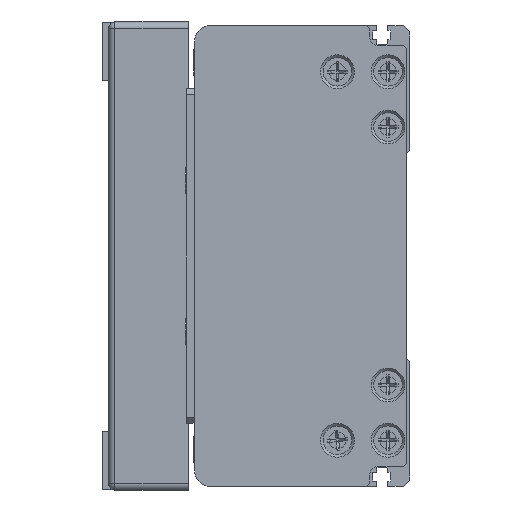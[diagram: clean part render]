
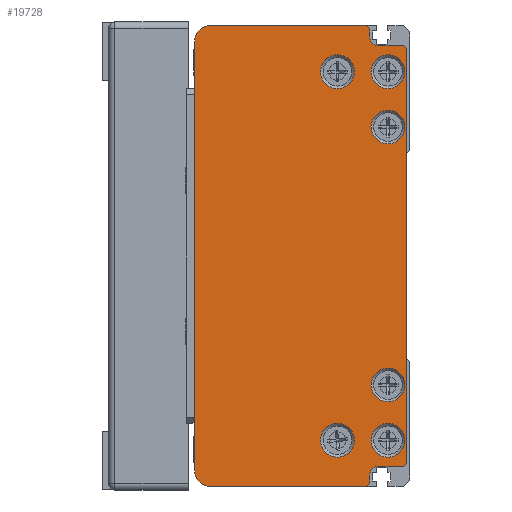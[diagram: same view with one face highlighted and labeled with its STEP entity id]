
A CAD part, left-side view. The second image highlights one B-rep face of the part: STEP entity #19728.
In plain terms, the highlighted planar face has unit normal (-1, 0, 0) as drawn and (0, 0, -1) by its records, which use the part's own axes.
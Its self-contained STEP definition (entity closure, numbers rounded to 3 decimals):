
#934=LINE('',#28482,#2599);
#935=LINE('',#28486,#2600);
#936=LINE('',#28488,#2601);
#937=LINE('',#28490,#2602);
#938=LINE('',#28494,#2603);
#939=LINE('',#28496,#2604);
#940=LINE('',#28498,#2605);
#941=LINE('',#28500,#2606);
#942=LINE('',#28502,#2607);
#943=LINE('',#28506,#2608);
#944=LINE('',#28508,#2609);
#945=LINE('',#28510,#2610);
#2599=VECTOR('',#23119,140.);
#2600=VECTOR('',#23122,51.);
#2601=VECTOR('',#23123,1.414);
#2602=VECTOR('',#23124,2.5);
#2603=VECTOR('',#23127,8.);
#2604=VECTOR('',#23128,1.414);
#2605=VECTOR('',#23129,135.);
#2606=VECTOR('',#23130,1.414);
#2607=VECTOR('',#23131,8.);
#2608=VECTOR('',#23134,2.5);
#2609=VECTOR('',#23135,1.414);
#2610=VECTOR('',#23136,51.);
#4217=PLANE('',#21070);
#4840=FACE_BOUND('',#6640,.T.);
#4841=FACE_BOUND('',#6641,.T.);
#4842=FACE_BOUND('',#6642,.T.);
#4843=FACE_BOUND('',#6643,.T.);
#4844=FACE_BOUND('',#6644,.T.);
#4845=FACE_BOUND('',#6645,.T.);
#5375=FACE_OUTER_BOUND('',#6639,.T.);
#6639=EDGE_LOOP('',(#13839,#13840,#13841,#13842,#13843,#13844,#13845,#13846,
#13847,#13848,#13849,#13850,#13851,#13852,#13853,#13854));
#6640=EDGE_LOOP('',(#13855));
#6641=EDGE_LOOP('',(#13856));
#6642=EDGE_LOOP('',(#13857));
#6643=EDGE_LOOP('',(#13858));
#6644=EDGE_LOOP('',(#13859));
#6645=EDGE_LOOP('',(#13860));
#8133=CIRCLE('',#21071,5.);
#8134=CIRCLE('',#21072,3.);
#8135=CIRCLE('',#21073,3.);
#8136=CIRCLE('',#21074,5.);
#8137=CIRCLE('',#21075,5.5);
#8138=CIRCLE('',#21076,5.5);
#8139=CIRCLE('',#21077,5.5);
#8140=CIRCLE('',#21078,5.5);
#8141=CIRCLE('',#21079,5.5);
#8142=CIRCLE('',#21080,5.5);
#8813=VERTEX_POINT('',#28480);
#8814=VERTEX_POINT('',#28481);
#8815=VERTEX_POINT('',#28483);
#8816=VERTEX_POINT('',#28485);
#8817=VERTEX_POINT('',#28487);
#8818=VERTEX_POINT('',#28489);
#8819=VERTEX_POINT('',#28491);
#8820=VERTEX_POINT('',#28493);
#8821=VERTEX_POINT('',#28495);
#8822=VERTEX_POINT('',#28497);
#8823=VERTEX_POINT('',#28499);
#8824=VERTEX_POINT('',#28501);
#8825=VERTEX_POINT('',#28503);
#8826=VERTEX_POINT('',#28505);
#8827=VERTEX_POINT('',#28507);
#8828=VERTEX_POINT('',#28509);
#8829=VERTEX_POINT('',#28512);
#8830=VERTEX_POINT('',#28514);
#8831=VERTEX_POINT('',#28516);
#8832=VERTEX_POINT('',#28518);
#8833=VERTEX_POINT('',#28520);
#8834=VERTEX_POINT('',#28522);
#10837=EDGE_CURVE('',#8813,#8814,#934,.T.);
#10838=EDGE_CURVE('',#8814,#8815,#8133,.T.);
#10839=EDGE_CURVE('',#8815,#8816,#935,.T.);
#10840=EDGE_CURVE('',#8816,#8817,#936,.T.);
#10841=EDGE_CURVE('',#8817,#8818,#937,.T.);
#10842=EDGE_CURVE('',#8818,#8819,#8134,.T.);
#10843=EDGE_CURVE('',#8819,#8820,#938,.T.);
#10844=EDGE_CURVE('',#8820,#8821,#939,.T.);
#10845=EDGE_CURVE('',#8821,#8822,#940,.T.);
#10846=EDGE_CURVE('',#8822,#8823,#941,.T.);
#10847=EDGE_CURVE('',#8823,#8824,#942,.T.);
#10848=EDGE_CURVE('',#8824,#8825,#8135,.T.);
#10849=EDGE_CURVE('',#8825,#8826,#943,.T.);
#10850=EDGE_CURVE('',#8826,#8827,#944,.T.);
#10851=EDGE_CURVE('',#8827,#8828,#945,.T.);
#10852=EDGE_CURVE('',#8828,#8813,#8136,.T.);
#10853=EDGE_CURVE('',#8829,#8829,#8137,.T.);
#10854=EDGE_CURVE('',#8830,#8830,#8138,.T.);
#10855=EDGE_CURVE('',#8831,#8831,#8139,.T.);
#10856=EDGE_CURVE('',#8832,#8832,#8140,.T.);
#10857=EDGE_CURVE('',#8833,#8833,#8141,.T.);
#10858=EDGE_CURVE('',#8834,#8834,#8142,.T.);
#13839=ORIENTED_EDGE('',*,*,#10837,.T.);
#13840=ORIENTED_EDGE('',*,*,#10838,.T.);
#13841=ORIENTED_EDGE('',*,*,#10839,.T.);
#13842=ORIENTED_EDGE('',*,*,#10840,.T.);
#13843=ORIENTED_EDGE('',*,*,#10841,.T.);
#13844=ORIENTED_EDGE('',*,*,#10842,.T.);
#13845=ORIENTED_EDGE('',*,*,#10843,.T.);
#13846=ORIENTED_EDGE('',*,*,#10844,.T.);
#13847=ORIENTED_EDGE('',*,*,#10845,.T.);
#13848=ORIENTED_EDGE('',*,*,#10846,.T.);
#13849=ORIENTED_EDGE('',*,*,#10847,.T.);
#13850=ORIENTED_EDGE('',*,*,#10848,.T.);
#13851=ORIENTED_EDGE('',*,*,#10849,.T.);
#13852=ORIENTED_EDGE('',*,*,#10850,.T.);
#13853=ORIENTED_EDGE('',*,*,#10851,.T.);
#13854=ORIENTED_EDGE('',*,*,#10852,.T.);
#13855=ORIENTED_EDGE('',*,*,#10853,.T.);
#13856=ORIENTED_EDGE('',*,*,#10854,.T.);
#13857=ORIENTED_EDGE('',*,*,#10855,.T.);
#13858=ORIENTED_EDGE('',*,*,#10856,.T.);
#13859=ORIENTED_EDGE('',*,*,#10857,.T.);
#13860=ORIENTED_EDGE('',*,*,#10858,.T.);
#19728=ADVANCED_FACE('',(#5375,#4840,#4841,#4842,#4843,#4844,#4845),#4217,
 .F.);
#21070=AXIS2_PLACEMENT_3D('',#28479,#23117,#23118);
#21071=AXIS2_PLACEMENT_3D('',#28484,#23120,#23121);
#21072=AXIS2_PLACEMENT_3D('',#28492,#23125,#23126);
#21073=AXIS2_PLACEMENT_3D('',#28504,#23132,#23133);
#21074=AXIS2_PLACEMENT_3D('',#28511,#23137,#23138);
#21075=AXIS2_PLACEMENT_3D('',#28513,#23139,#23140);
#21076=AXIS2_PLACEMENT_3D('',#28515,#23141,#23142);
#21077=AXIS2_PLACEMENT_3D('',#28517,#23143,#23144);
#21078=AXIS2_PLACEMENT_3D('',#28519,#23145,#23146);
#21079=AXIS2_PLACEMENT_3D('',#28521,#23147,#23148);
#21080=AXIS2_PLACEMENT_3D('',#28523,#23149,#23150);
#23117=DIRECTION('center_axis',(0.,0.,
1.));
#23118=DIRECTION('ref_axis',(1.,0.,0.));
#23119=DIRECTION('',(1.,0.,0.));
#23120=DIRECTION('center_axis',(0.,0.,
-1.));
#23121=DIRECTION('ref_axis',(-1.,0.,0.));
#23122=DIRECTION('',(0.,-1.,0.));
#23123=DIRECTION('',(-0.707,-0.707,0.));
#23124=DIRECTION('',(-1.,0.,0.));
#23125=DIRECTION('center_axis',(0.,0.,
1.));
#23126=DIRECTION('ref_axis',(0.,1.,0.));
#23127=DIRECTION('',(0.,-1.,0.));
#23128=DIRECTION('',(-0.707,-0.707,0.));
#23129=DIRECTION('',(-1.,0.,0.));
#23130=DIRECTION('',(-0.707,0.707,0.));
#23131=DIRECTION('',(0.,1.,0.));
#23132=DIRECTION('center_axis',(0.,0.,
1.));
#23133=DIRECTION('ref_axis',(1.,0.,0.));
#23134=DIRECTION('',(-1.,0.,0.));
#23135=DIRECTION('',(-0.707,0.707,0.));
#23136=DIRECTION('',(0.,1.,0.));
#23137=DIRECTION('center_axis',(0.,0.,
-1.));
#23138=DIRECTION('ref_axis',(0.,-1.,0.));
#23139=DIRECTION('center_axis',(0.,0.,
1.));
#23140=DIRECTION('ref_axis',(-1.,0.,0.));
#23141=DIRECTION('center_axis',(0.,0.,
1.));
#23142=DIRECTION('ref_axis',(-1.,0.,0.));
#23143=DIRECTION('center_axis',(0.,0.,
1.));
#23144=DIRECTION('ref_axis',(-1.,0.,0.));
#23145=DIRECTION('center_axis',(0.,0.,
1.));
#23146=DIRECTION('ref_axis',(-1.,0.,0.));
#23147=DIRECTION('center_axis',(0.,0.,
1.));
#23148=DIRECTION('ref_axis',(-1.,0.,0.));
#23149=DIRECTION('center_axis',(0.,0.,
1.));
#23150=DIRECTION('ref_axis',(-1.,0.,0.));
#28479=CARTESIAN_POINT('Origin',(0.25,38.047,-669.));
#28480=CARTESIAN_POINT('',(-69.75,72.25,-669.));
#28481=CARTESIAN_POINT('',(70.25,72.25,-669.));
#28482=CARTESIAN_POINT('',(-69.75,72.25,-669.));
#28483=CARTESIAN_POINT('',(75.25,67.25,-669.));
#28484=CARTESIAN_POINT('Origin',(70.25,67.25,-669.));
#28485=CARTESIAN_POINT('',(75.25,16.25,-669.));
#28486=CARTESIAN_POINT('',(75.25,67.25,-669.));
#28487=CARTESIAN_POINT('',(74.25,15.25,-669.));
#28488=CARTESIAN_POINT('',(75.25,16.25,-669.));
#28489=CARTESIAN_POINT('',(71.75,15.25,-669.));
#28490=CARTESIAN_POINT('',(74.25,15.25,-669.));
#28491=CARTESIAN_POINT('',(68.75,12.25,-669.));
#28492=CARTESIAN_POINT('Origin',(71.75,12.25,-669.));
#28493=CARTESIAN_POINT('',(68.75,4.25,-669.));
#28494=CARTESIAN_POINT('',(68.75,12.25,-669.));
#28495=CARTESIAN_POINT('',(67.75,3.25,-669.));
#28496=CARTESIAN_POINT('',(68.75,4.25,-669.));
#28497=CARTESIAN_POINT('',(-67.25,3.25,-669.));
#28498=CARTESIAN_POINT('',(67.75,3.25,-669.));
#28499=CARTESIAN_POINT('',(-68.25,4.25,-669.));
#28500=CARTESIAN_POINT('',(-67.25,3.25,-669.));
#28501=CARTESIAN_POINT('',(-68.25,12.25,-669.));
#28502=CARTESIAN_POINT('',(-68.25,4.25,-669.));
#28503=CARTESIAN_POINT('',(-71.25,15.25,-669.));
#28504=CARTESIAN_POINT('Origin',(-71.25,12.25,-669.));
#28505=CARTESIAN_POINT('',(-73.75,15.25,-669.));
#28506=CARTESIAN_POINT('',(-71.25,15.25,-669.));
#28507=CARTESIAN_POINT('',(-74.75,16.25,-669.));
#28508=CARTESIAN_POINT('',(-73.75,15.25,-669.));
#28509=CARTESIAN_POINT('',(-74.75,67.25,-669.));
#28510=CARTESIAN_POINT('',(-74.75,16.25,-669.));
#28511=CARTESIAN_POINT('Origin',(-69.75,67.25,-669.));
#28512=CARTESIAN_POINT('',(-47.25,9.25,-669.));
#28513=CARTESIAN_POINT('Origin',(-41.75,9.25,-669.));
#28514=CARTESIAN_POINT('',(36.75,9.25,-669.));
#28515=CARTESIAN_POINT('Origin',(42.25,9.25,-669.));
#28516=CARTESIAN_POINT('',(-65.25,25.75,-669.));
#28517=CARTESIAN_POINT('Origin',(-59.75,25.75,-669.));
#28518=CARTESIAN_POINT('',(54.75,25.75,-669.));
#28519=CARTESIAN_POINT('Origin',(60.25,25.75,-669.));
#28520=CARTESIAN_POINT('',(-65.25,9.25,-669.));
#28521=CARTESIAN_POINT('Origin',(-59.75,9.25,-669.));
#28522=CARTESIAN_POINT('',(54.75,9.25,-669.));
#28523=CARTESIAN_POINT('Origin',(60.25,9.25,-669.));
